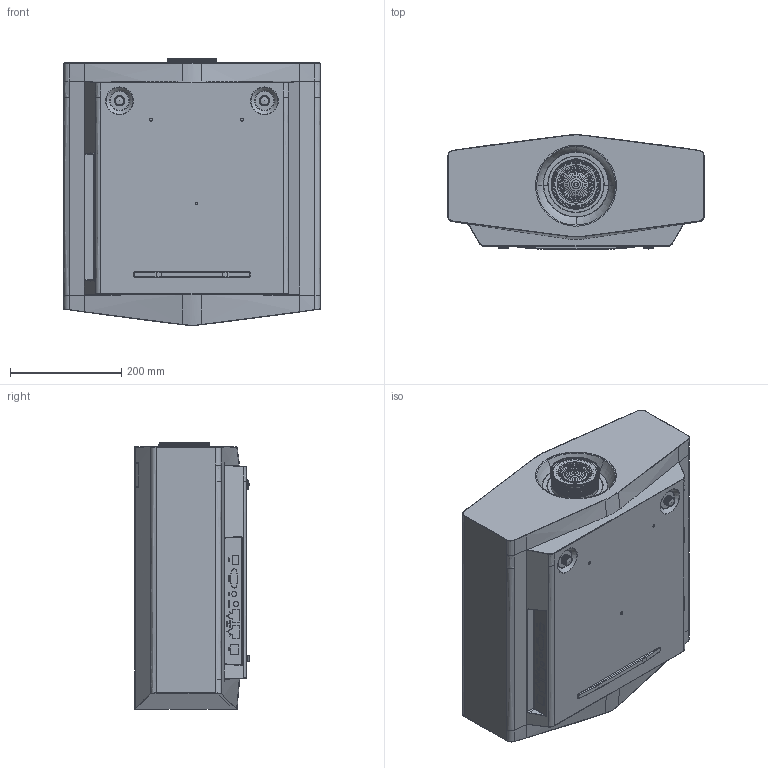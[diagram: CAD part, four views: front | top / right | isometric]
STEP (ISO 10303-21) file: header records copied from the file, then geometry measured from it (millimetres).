
FILE_DESCRIPTION(/* description */ (''),/* implementation_level */ '2;1');
FILE_NAME(/* name */ 'simple_harrier.stp',/* time_stamp */ '2022-03-29T16:08:36+09:00',/* author */ (''),/* organization */ (''),/* preprocessor_version */ 'ST-DEVELOPER v18.1',/* originating_system */ 'SIEMENS PLM Software NX 1973',/* authorisation */ '');
FILE_SCHEMA (('AP203_CONFIGURATION_CONTROLLED_3D_DESIGN_OF_MECHANICAL_PARTS_AND_ASSEMBLIES_MIM_LF { 1 0 10303 403 2 1 2}'));
Products named in the file (1): simple_harrier
Bounding box: 460 x 205.29 x 479.11 mm (x, y, z)
Volume: 36377775 mm3; surface area: 829938.3 mm2
Topology: 6 solids, 11 shells, 3210 faces, 9077 edges, 5728 vertices
Faces by surface type: cylinder 1288, bspline 820, plane 680, cone 157, sphere 106, extrusion 85, torus 74
Full cylindrical faces by diameter (mm): 1.2 x2, 1.4 x9, 1.8 x6, 2 x12, 3.2 x1, 3.5 x9, 5 x5, 7.5 x2, 9 x2, 11 x2, 15 x2, 15.5 x2, 44 x1, 50 x2, 53 x1, 55 x1, 57 x1, 59 x1, 61 x1, 63 x1, 63.4 x1, 64.8 x1, 70 x1, 71.6 x1, 76.2 x1, 77.5 x1, 78 x1, 79 x1, 80.5 x1, 84.5 x2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
Entity records: 209849 total; most frequent: CARTESIAN_POINT 120475, ORIENTED_EDGE 17114, DIRECTION 10632, EDGE_CURVE 8557, VERTEX_POINT 5618, B_SPLINE_CURVE_WITH_KNOTS 4464, AXIS2_PLACEMENT_3D 4098, EDGE_LOOP 3455
